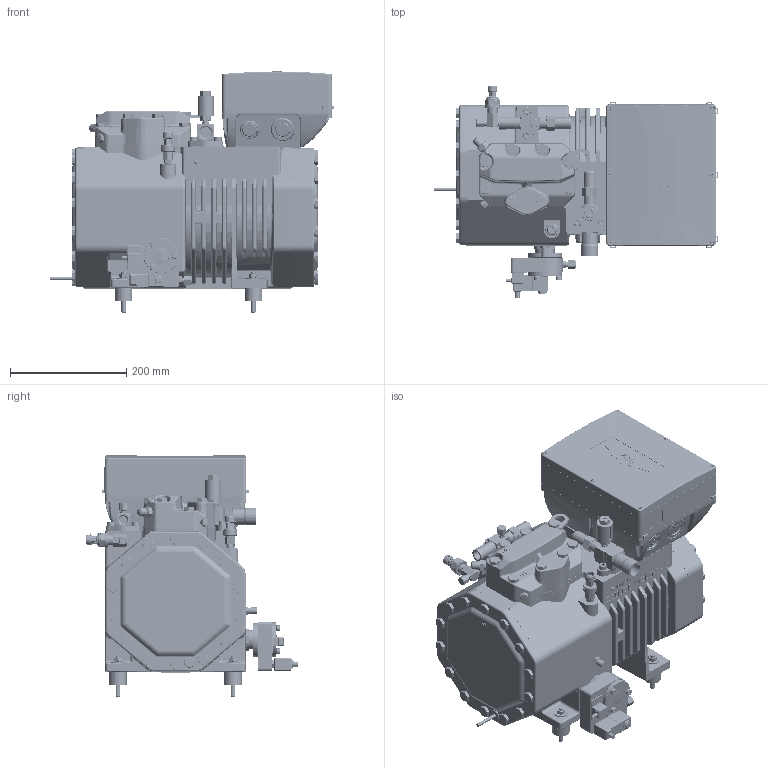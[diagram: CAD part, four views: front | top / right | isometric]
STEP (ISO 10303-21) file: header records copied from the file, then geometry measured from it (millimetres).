
FILE_DESCRIPTION(/* description */ (''),/* implementation_level */ '2;1');
FILE_NAME(/* name */ '2ESL-2DSL-2CSL-CPL_Arrangement 1.stp',/* time_stamp */ '2025-06-12T15:26:40+02:00',/* author */ (''),/* organization */ (''),/* preprocessor_version */ 'ST-DEVELOPER v20',/* originating_system */ 'SIEMENS PLM Software NX2406.8100',/* authorisation */ '');
FILE_SCHEMA (('AUTOMOTIVE_DESIGN { 1 0 10303 214 3 1 1 1 }'));
Products named in the file (19): PT1000; DISCHARGE-SENSOR-HP; PRESSURE-TRANSMITTER-43-LP; TERMINAL-BOX-CE3-CM-RC-02; CYLINDER-HEAD; OIL-LEVEL-MONITORING-OLM-IQ-2; CRANKCASE-HEATER-200-260V-120W; SHUT-OFF-VALVE-DI22-DA30-DN20; SHUT-OFF-VALVE-DI16-DA22-DN12; HOUSING-COVER; CYLINDER-HEAD-01; DAMPER-ELEMENT-2EC-4CC; TERMINAL-BOX-STANDARD-IP65; PROTECT-CAP-PRESS-REL-VALVE; BODY-CH2; APPLICATION-ENVENLOPE-MONITORI; 2ESL-2DSL-2CSL-OPTION; 2ESL-2DSL-2CSL-STANDARD; 2ESL-2DSL-2CSL-CPL
Assembly tree (18 placements, depth 4):
  2ESL-2DSL-2CSL-CPL
    2ESL-2DSL-2CSL-STANDARD
      BODY-CH2
      PROTECT-CAP-PRESS-REL-VALVE
      TERMINAL-BOX-STANDARD-IP65
      DAMPER-ELEMENT-2EC-4CC
      CYLINDER-HEAD-01
      HOUSING-COVER
      SHUT-OFF-VALVE-DI16-DA22-DN12
      SHUT-OFF-VALVE-DI22-DA30-DN20
    2ESL-2DSL-2CSL-OPTION
      CRANKCASE-HEATER-200-260V-120W
      OIL-LEVEL-MONITORING-OLM-IQ-2
      CYLINDER-HEAD
      APPLICATION-ENVENLOPE-MONITORI
        PRESSURE-TRANSMITTER-43-LP
        DISCHARGE-SENSOR-HP
        PT1000
      TERMINAL-BOX-CE3-CM-RC-02
Bounding box: 489.63 x 364.6 x 414.7 mm (x, y, z)
Volume: 28869557.5 mm3; surface area: 1261863 mm2
Topology: 22 solids, 30 shells, 6696 faces, 16732 edges, 10487 vertices
Faces by surface type: plane 2982, cylinder 1245, bspline 1095, cone 699, extrusion 315, torus 266, sphere 94
Full cylindrical faces by diameter (mm): 0.75 x3, 3 x4, 4 x12, 5 x7, 6 x5, 6.5 x2, 6.8 x2, 7 x1, 8 x19, 8.08 x1, 8.2 x1, 8.4 x4, 8.5 x4, 9 x8, 9.391 x2, 9.8 x1, 10 x3, 10.287 x2, 10.29 x5, 10.72 x2, 10.907 x1, 11 x7, 12 x1, 13 x9, 14 x2, 14.59 x10, 15.5 x1, 15.6 x31, 16 x1, 16.1 x1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
Entity records: 235664 total; most frequent: CARTESIAN_POINT 85493, ORIENTED_EDGE 31972, DIRECTION 26405, EDGE_CURVE 15986, VERTEX_POINT 10305, AXIS2_PLACEMENT_3D 9730, EDGE_LOOP 7685, VECTOR 6945
